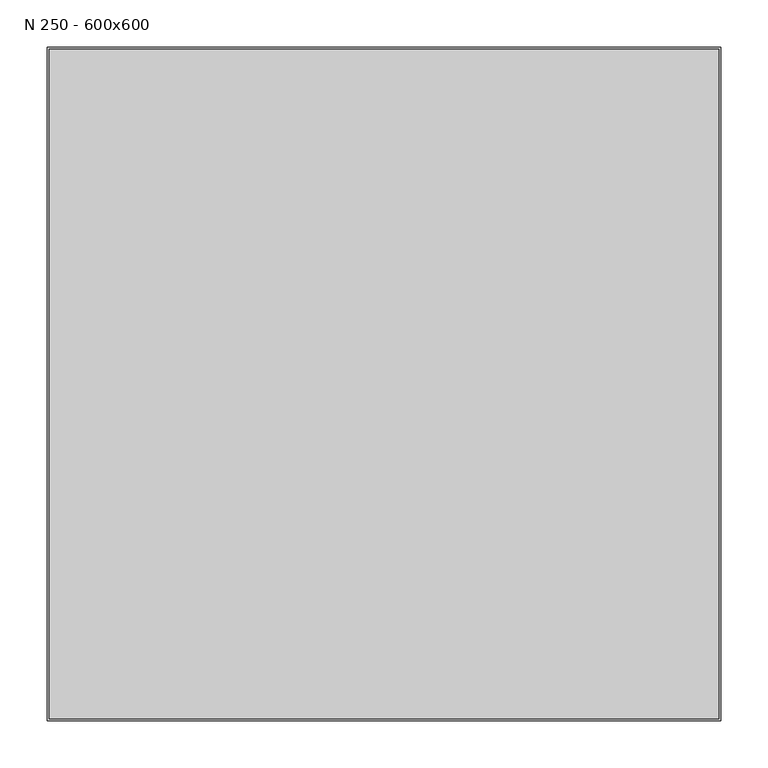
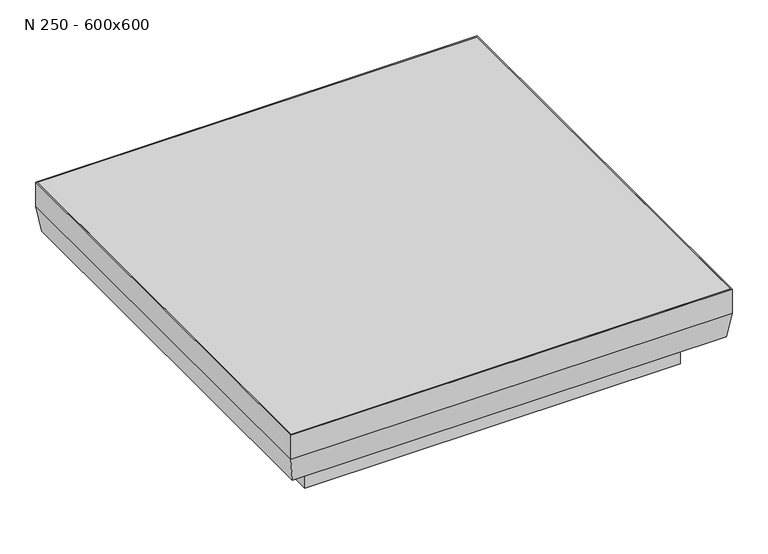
"""IFC4 building model written with IfcOpenShell, lengths in millimetres: proxy geometry, ME_ST_WPB_Access Cover UNIFACE GS FR_ACO : N 250 - 600x600."""

from ifc_helpers import new_model, si_unit, frame, origin, place, context, project, spatial, polyline, outline, extrude, faceted_brep, source, transform, mapped, element, save


def n_250_600x600_490f5d89(model_context):
    return source(origin(), model_context, "Body", "SolidModel", [
        extrude(outline(polyline([(288.0, 288.0), (288.0, -288.0), (-288.0, -288.0), (-288.0, 288.0), (288.0, 288.0)])), frame((0.0, 0.0, -137.0), z_axis=(0.0, 0.0, 1.0), x_axis=(1.0, 0.0, 0.0)), (0.0, 0.0, 1.0), 27.0),
        faceted_brep([(272.0, 272.0, -137.0), (272.0, 272.0, -139.0), (272.0, -272.0, -139.0), (272.0, -272.0, -137.0), (288.0, 288.0, -110.0), (288.0, 288.0, -137.0), (288.0, -288.0, -137.0), (288.0, -288.0, -110.0), (290.0, 290.0, -139.0), (290.0, 290.0, -110.0), (290.0, -290.0, -110.0), (290.0, -290.0, -139.0), (-272.0, -272.0, -139.0), (-272.0, -272.0, -137.0), (-288.0, -288.0, -137.0), (-288.0, -288.0, -110.0), (-290.0, -290.0, -110.0), (-290.0, -290.0, -139.0), (-272.0, 272.0, -139.0), (-272.0, 272.0, -137.0), (-288.0, 288.0, -137.0), (-288.0, 288.0, -110.0), (-290.0, 290.0, -110.0), (-290.0, 290.0, -139.0)], [[[0, 1, 2, 3]], [[4, 5, 6, 7]], [[8, 9, 10, 11]], [[3, 2, 12, 13]], [[7, 6, 14, 15]], [[11, 10, 16, 17]], [[13, 12, 18, 19]], [[15, 14, 20, 21]], [[17, 16, 22, 23]], [[11, 17, 23, 8], [1, 18, 12, 2]], [[19, 18, 1, 0]], [[5, 20, 14, 6], [3, 13, 19, 0]], [[21, 20, 5, 4]], [[9, 22, 16, 10], [7, 15, 21, 4]], [[23, 22, 9, 8]]]),
        extrude(outline(polyline([(352.9610723, 352.9610723), (352.9610723, -352.9610723), (-352.9610723, -352.9610723), (-352.9610723, 352.9610723), (352.9610723, 352.9610723)])), frame((0.0, 0.0, -5.0), z_axis=(0.0, 0.0, 1.0), x_axis=(1.0, 0.0, 0.0)), (0.0, 0.0, 1.0), 5.0),
        faceted_brep([(352.9610723, 352.9610723, 0.0), (352.9610723, 352.9610723, -40.9168388), (352.9610723, -352.9610723, -40.9168388), (352.9610723, -352.9610723, 0.0), (354.9610723, 354.9610723, -41.0566924), (354.9610723, 354.9610723, 0.0), (354.9610723, -354.9610723, 0.0), (354.9610723, -354.9610723, -41.0566924), (-352.9610723, -352.9610723, -40.9168388), (-352.9610723, -352.9610723, 0.0), (-354.9610723, -354.9610723, 0.0), (-354.9610723, -354.9610723, -41.0566924), (-352.9610723, 352.9610723, -40.9168388), (-352.9610723, 352.9610723, 0.0), (-354.9610723, 354.9610723, 0.0), (-354.9610723, 354.9610723, -41.0566924), (347.3587115, 347.3587115, -80.5), (347.3587115, -347.3587115, -80.5), (-347.3587115, -347.3587115, -80.5), (-347.3587115, 347.3587115, -80.5), (300.0, -300.0, -80.5), (-300.0, -300.0, -80.5), (-300.0, 300.0, -80.5), (300.0, 300.0, -80.5), (349.0972849, 349.0972849, -82.5), (349.0972849, -349.0972849, -82.5), (-349.0972849, -349.0972849, -82.5), (-349.0972849, 349.0972849, -82.5), (302.0, 302.0, -82.5), (-302.0, 302.0, -82.5), (-302.0, -302.0, -82.5), (302.0, -302.0, -82.5), (302.0, 302.0, -140.5), (302.0, -302.0, -140.5), (300.0, 300.0, -140.5), (300.0, -300.0, -140.5), (-302.0, -302.0, -140.5), (-300.0, -300.0, -140.5), (-302.0, 302.0, -140.5), (-300.0, 300.0, -140.5)], [[[0, 1, 2, 3]], [[4, 5, 6, 7]], [[3, 2, 8, 9]], [[7, 6, 10, 11]], [[9, 8, 12, 13]], [[11, 10, 14, 15]], [[13, 12, 1, 0]], [[5, 14, 10, 6], [3, 9, 13, 0]], [[15, 14, 5, 4]], [[1, 16, 17, 2]], [[2, 17, 18, 8]], [[8, 18, 19, 12]], [[16, 19, 18, 17], [20, 21, 22, 23]], [[12, 19, 16, 1]], [[24, 4, 7, 25]], [[25, 7, 11, 26]], [[26, 11, 15, 27]], [[27, 15, 4, 24]], [[25, 26, 27, 24], [28, 29, 30, 31]], [[32, 28, 31, 33]], [[23, 34, 35, 20]], [[33, 31, 30, 36]], [[20, 35, 37, 21]], [[36, 30, 29, 38]], [[21, 37, 39, 22]], [[38, 29, 28, 32]], [[33, 36, 38, 32], [34, 39, 37, 35]], [[22, 39, 34, 23]]]),
        faceted_brep([(-300.0, -300.0, -82.5), (-300.0, -300.0, -80.5), (-300.0, 300.0, -80.5), (-300.0, 300.0, -82.5), (-276.2264814, -276.2264814, -110.0), (-287.786417, -287.786417, -82.5), (-287.786417, 287.786417, -82.5), (-276.2264814, 276.2264814, -110.0), (-287.0, -287.0, -80.5), (-275.2298838, -275.2298838, -108.5), (-275.2298838, 275.2298838, -108.5), (-287.0, 287.0, -80.5), (300.0, 300.0, -80.5), (300.0, 300.0, -82.5), (287.786417, 287.786417, -82.5), (276.2264814, 276.2264814, -110.0), (275.2298838, 275.2298838, -108.5), (287.0, 287.0, -80.5), (300.0, -300.0, -80.5), (300.0, -300.0, -82.5), (287.786417, -287.786417, -82.5), (276.2264814, -276.2264814, -110.0), (275.2298838, -275.2298838, -108.5), (287.0, -287.0, -80.5)], [[[0, 1, 2, 3]], [[4, 5, 6, 7]], [[8, 9, 10, 11]], [[3, 2, 12, 13]], [[7, 6, 14, 15]], [[11, 10, 16, 17]], [[13, 12, 18, 19]], [[15, 14, 20, 21]], [[17, 16, 22, 23]], [[2, 1, 18, 12], [8, 11, 17, 23]], [[1, 0, 19, 18]], [[0, 3, 13, 19], [6, 5, 20, 14]], [[5, 4, 21, 20]], [[4, 7, 15, 21]], [[10, 9, 22, 16]], [[9, 8, 23, 22]]]),
    ])


if __name__ == "__main__":
    model = new_model("IFC4")
    model_context = context("Model", 3, world=origin())
    ifc_project = project(units=[si_unit("LENGTHUNIT", "METRE", prefix="MILLI")], contexts=[model_context])
    site = spatial("IfcSite", under=ifc_project)
    building = spatial("IfcBuilding", under=site)
    placement = place(None, origin())
    n_250_600x600_shape = n_250_600x600_490f5d89(model_context)
    element("IfcBuildingElementProxy", 1, Name="ME_ST_WPB_Access Cover UNIFACE GS FR_ACO : N 250 - 600x600", ObjectType="ME_ST_WPB_Access Cover UNIFACE GS FR_ACO : N 250 - 600x600", at=placement, inside=building, context=model_context, shape_type="MappedRepresentation", body=[
        mapped(n_250_600x600_shape, transform((0.0, 0.0, 0.0), x_axis=(1.0, 0.0, 0.0), y_axis=(0.0, 1.0, 0.0), z_axis=(0.0, 0.0, 1.0))),
    ])
    save(model, "model.ifc")
